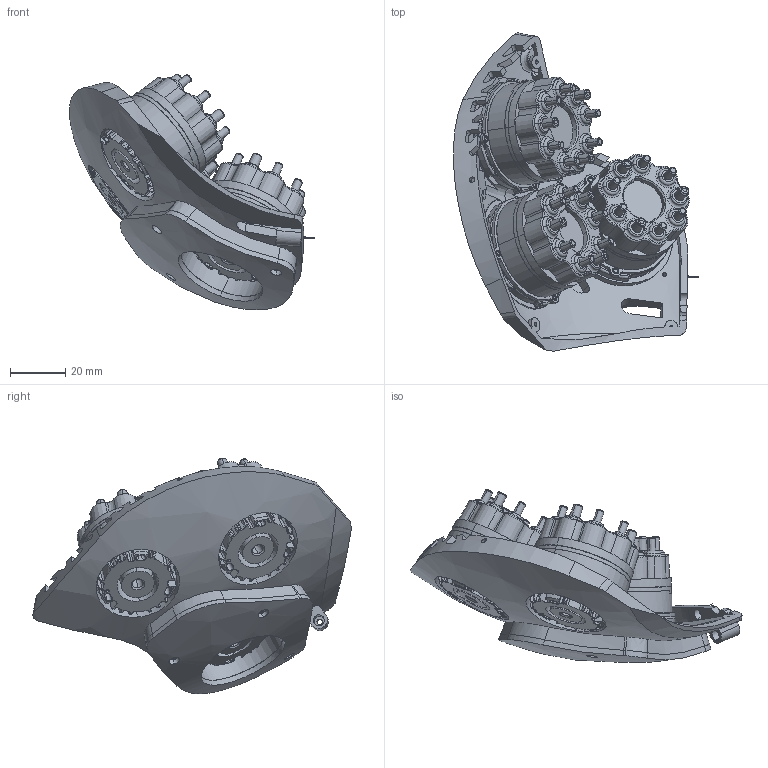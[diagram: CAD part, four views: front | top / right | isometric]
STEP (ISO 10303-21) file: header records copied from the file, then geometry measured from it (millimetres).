
FILE_DESCRIPTION (( 'STEP AP214' ), '1' );
FILE_NAME ('Kernel_Flow2_Simplified_RightNape_wModules.STEP', '2024-10-04T13:03:51', ( '' ), ( '' ), 'SwSTEP 2.0', 'SolidWorks 2023', '' );
FILE_SCHEMA (( 'AUTOMOTIVE_DESIGN' ));
Length unit declared in the file: millimetre
Products named in the file (6): Kernel_Flow2_Simplified_RightNape_wModules; Kernel_Flow2_Simplified_Right_Nape_Plate_Rev2M; Kernel Generic Module Flow2.STEP_M32; Kernel Generic Module Flow2.STEP_M34; Kernel Generic Module Flow2.STEP_M36; Kernel_Flow2_Simplified_Right_Nape_Outer_Cover_Rev2
Assembly tree (5 placements, depth 2):
  Kernel_Flow2_Simplified_RightNape_wModules
    Kernel_Flow2_Simplified_Right_Nape_Outer_Cover_Rev2
    Kernel Generic Module Flow2.STEP_M34
    Kernel Generic Module Flow2.STEP_M36
    Kernel Generic Module Flow2.STEP_M32
    Kernel_Flow2_Simplified_Right_Nape_Plate_Rev2M
Bounding box: 88.83 x 115.39 x 85.52 mm (x, y, z)
Volume: 35030.8 mm3; surface area: 79395 mm2
Topology: 2 solids, 61 shells, 3170 faces, 8025 edges, 5042 vertices
Faces by surface type: cylinder 1134, plane 746, torus 483, cone 429, bspline 243, sphere 135
Entity records: 143831 total; most frequent: CARTESIAN_POINT 68486, DIRECTION 15883, ORIENTED_EDGE 15843, EDGE_CURVE 7932, AXIS2_PLACEMENT_3D 6758, VERTEX_POINT 5018, CIRCLE 3828, EDGE_LOOP 3397
